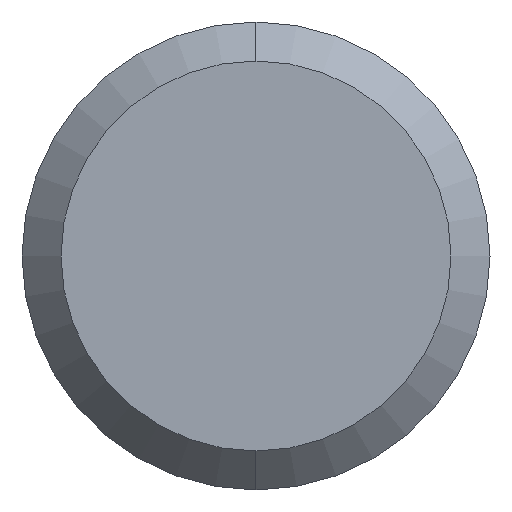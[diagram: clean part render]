
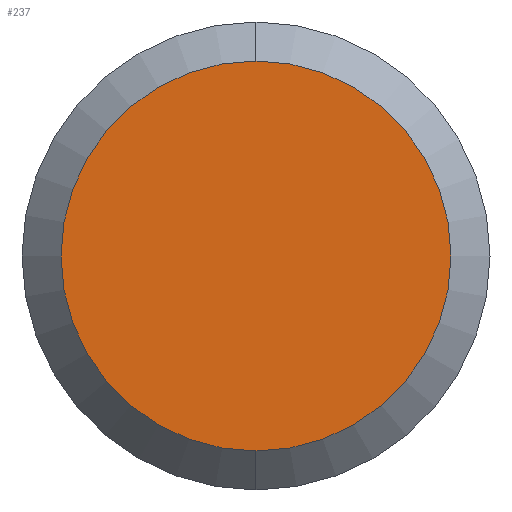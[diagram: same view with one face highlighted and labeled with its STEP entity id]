
A CAD part, left-side view. The second image highlights one B-rep face of the part: STEP entity #237.
In plain terms, the highlighted planar face has unit normal (-1, 0, 0).
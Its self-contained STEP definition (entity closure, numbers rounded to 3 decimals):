
#1 = DIRECTION ( 'NONE',  ( 0., 0., -1. ) ) ;
#33 = CARTESIAN_POINT ( 'NONE',  ( -108.5, 0., 0. ) ) ;
#46 = ORIENTED_EDGE ( 'NONE', *, *, #167, .T. ) ;
#50 = AXIS2_PLACEMENT_3D ( 'NONE', #375, #126, #191 ) ;
#114 = EDGE_LOOP ( 'NONE', ( #46, #136 ) ) ;
#126 = DIRECTION ( 'NONE',  ( 1., 0., 0. ) ) ;
#136 = ORIENTED_EDGE ( 'NONE', *, *, #176, .T. ) ;
#148 = DIRECTION ( 'NONE',  ( 0., 0., -1. ) ) ;
#161 = CIRCLE ( 'NONE', #388, 5. ) ;
#167 = EDGE_CURVE ( 'NONE', #189, #348, #347, .T. ) ;
#176 = EDGE_CURVE ( 'NONE', #348, #189, #161, .T. ) ;
#181 = DIRECTION ( 'NONE',  ( -1., 0., 0. ) ) ;
#182 = CARTESIAN_POINT ( 'NONE',  ( -108.5, 0., -5. ) ) ;
#189 = VERTEX_POINT ( 'NONE', #182 ) ;
#191 = DIRECTION ( 'NONE',  ( 0., 0., -1. ) ) ;
#237 = ADVANCED_FACE ( 'NONE', ( #264 ), #248, .F. ) ;
#248 = PLANE ( 'NONE',  #50 ) ;
#256 = CARTESIAN_POINT ( 'NONE',  ( -108.5, 0., 5. ) ) ;
#264 = FACE_OUTER_BOUND ( 'NONE', #114, .T. ) ;
#297 = DIRECTION ( 'NONE',  ( -1., 0., 0. ) ) ;
#347 = CIRCLE ( 'NONE', #363, 5. ) ;
#348 = VERTEX_POINT ( 'NONE', #256 ) ;
#363 = AXIS2_PLACEMENT_3D ( 'NONE', #33, #297, #148 ) ;
#364 = CARTESIAN_POINT ( 'NONE',  ( -108.5, 0., 0. ) ) ;
#375 = CARTESIAN_POINT ( 'NONE',  ( -108.5, 6., 0. ) ) ;
#388 = AXIS2_PLACEMENT_3D ( 'NONE', #364, #181, #1 ) ;
